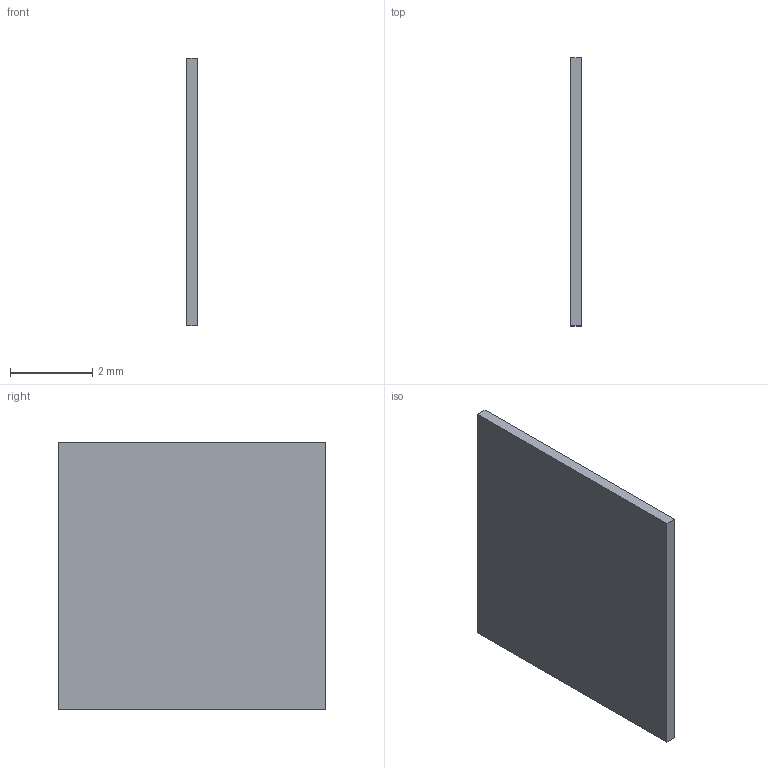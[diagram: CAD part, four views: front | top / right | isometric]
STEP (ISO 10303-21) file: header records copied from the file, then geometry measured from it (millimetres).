
FILE_DESCRIPTION(('Open CASCADE Model'),'2;1');
FILE_NAME('SWITCH_REACTION_SHIM_DOWN','2026-09-06T11:49:22',('Author'),( 'Open CASCADE'),'Open CASCADE STEP processor 7.8','build123d', 'Unknown');
FILE_SCHEMA(('AUTOMOTIVE_DESIGN { 1 0 10303 214 1 1 1 1 }'));
Length unit declared in the file: millimetre
Products named in the file (2): =>[0:1:1:2]; SWITCH_REACTION_SHIM_DOWN
Assembly tree (1 placements, depth 2):
  =>[0:1:1:2]
    SWITCH_REACTION_SHIM_DOWN
Bounding box: 0.25 x 6.5 x 6.5 mm (x, y, z)
Volume: 10.6 mm3; surface area: 91 mm2
Topology: 1 solids, 1 shells, 6 faces, 12 edges, 8 vertices
Faces by surface type: plane 6
Entity records: 340 total; most frequent: CARTESIAN_POINT 52, DIRECTION 52, LINE 36, VECTOR 36, ORIENTED_EDGE 24, PCURVE 24, DEFINITIONAL_REPRESENTATION 24, EDGE_CURVE 12
